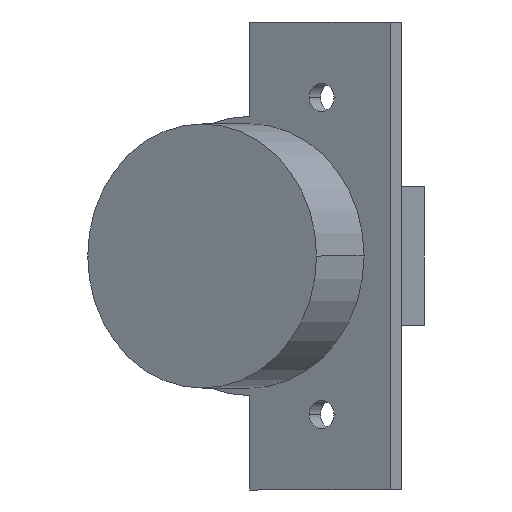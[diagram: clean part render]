
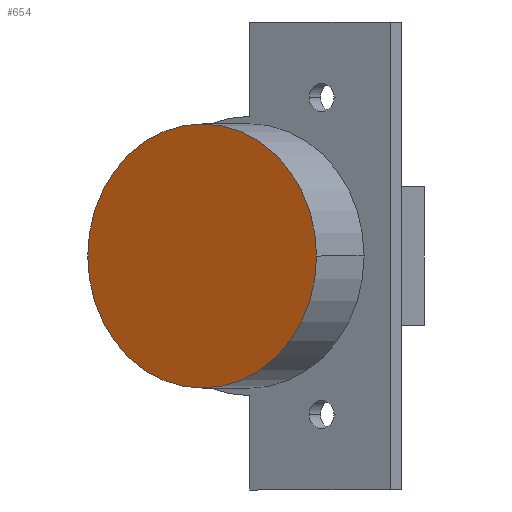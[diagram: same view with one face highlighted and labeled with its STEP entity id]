
A CAD part, front view. The second image highlights one B-rep face of the part: STEP entity #654.
In plain terms, the highlighted planar face has unit normal (-0.5, -0.866, 0).
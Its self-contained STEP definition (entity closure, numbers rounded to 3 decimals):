
#17 = VERTEX_POINT ( 'NONE', #97 ) ;
#25 = VERTEX_POINT ( 'NONE', #105 ) ;
#97 = CARTESIAN_POINT ( 'NONE',  ( -18.768, -2.162, 0. ) ) ;
#105 = CARTESIAN_POINT ( 'NONE',  ( 11.542, -19.662, 0. ) ) ;
#169 = PLANE ( 'NONE',  #1321 ) ;
#173 = CARTESIAN_POINT ( 'NONE',  ( -3.613, -10.912, 0. ) ) ;
#185 = DIRECTION ( 'NONE',  ( -0.5, -0.866, 0. ) ) ;
#186 = DIRECTION ( 'NONE',  ( 0.866, -0.5, 0. ) ) ;
#523 = CARTESIAN_POINT ( 'NONE',  ( -3.613, -10.912, 0. ) ) ;
#526 = DIRECTION ( 'NONE',  ( -0.5, -0.866, 0. ) ) ;
#527 = DIRECTION ( 'NONE',  ( 0.866, -0.5, 0. ) ) ;
#536 = CARTESIAN_POINT ( 'NONE',  ( -3.613, -10.912, 0. ) ) ;
#543 = DIRECTION ( 'NONE',  ( -0.5, -0.866, 0. ) ) ;
#544 = DIRECTION ( 'NONE',  ( 0.866, -0.5, 0. ) ) ;
#654 = ADVANCED_FACE ( 'NONE', ( #1019 ), #169, .T. ) ;
#755 = EDGE_LOOP ( 'NONE', ( #885, #884 ) ) ;
#884 = ORIENTED_EDGE ( 'NONE', *, *, #1407, .T. ) ;
#885 = ORIENTED_EDGE ( 'NONE', *, *, #1401, .T. ) ;
#1019 = FACE_OUTER_BOUND ( 'NONE', #755, .T. ) ;
#1241 = CIRCLE ( 'NONE', #1504, 17.5 ) ;
#1250 = CIRCLE ( 'NONE', #1507, 17.5 ) ;
#1321 = AXIS2_PLACEMENT_3D ( 'NONE', #173, #185, #186 ) ;
#1401 = EDGE_CURVE ( 'NONE', #17, #25, #1250, .T. ) ;
#1407 = EDGE_CURVE ( 'NONE', #25, #17, #1241, .T. ) ;
#1504 = AXIS2_PLACEMENT_3D ( 'NONE', #536, #543, #544 ) ;
#1507 = AXIS2_PLACEMENT_3D ( 'NONE', #523, #526, #527 ) ;
